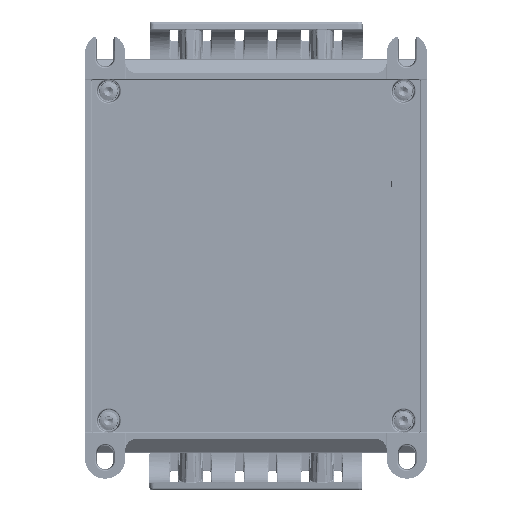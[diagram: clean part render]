
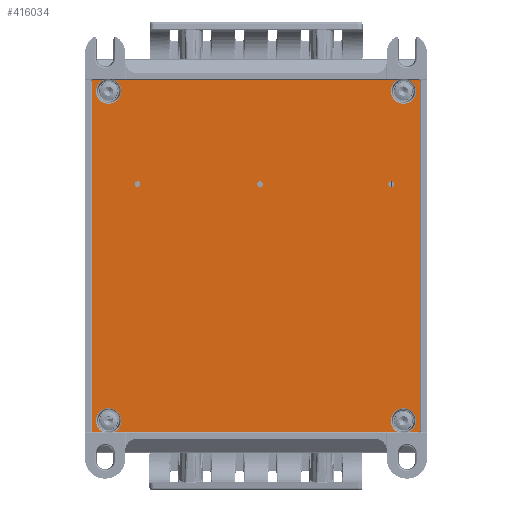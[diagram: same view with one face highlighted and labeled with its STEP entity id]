
A CAD part, front view. The second image highlights one B-rep face of the part: STEP entity #416034.
In plain terms, the highlighted planar face has unit normal (0, -1, 0).
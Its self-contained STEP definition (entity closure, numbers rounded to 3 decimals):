
#36727=CIRCLE('',#444584,0.66);
#36731=CIRCLE('',#444590,0.66);
#36734=CIRCLE('',#444595,5.386);
#36738=CIRCLE('',#444600,5.386);
#36742=CIRCLE('',#444604,5.386);
#37201=CIRCLE('',#445582,0.66);
#37205=CIRCLE('',#445588,0.66);
#37206=CIRCLE('',#445594,5.386);
#37208=CIRCLE('',#445597,5.386);
#37209=CIRCLE('',#445598,5.386);
#37210=CIRCLE('',#445599,1.25);
#37211=CIRCLE('',#445600,1.25);
#37212=CIRCLE('',#445601,1.25);
#43037=FACE_BOUND('',#94897,.T.);
#43038=FACE_BOUND('',#94898,.T.);
#43039=FACE_BOUND('',#94899,.T.);
#51762=PLANE('',#445596);
#70455=FACE_OUTER_BOUND('',#94896,.T.);
#94896=EDGE_LOOP('',(#364639,#364640,#364641,#364642,#364643,#364644,#364645,
#364646,#364647,#364648,#364649,#364650,#364651,#364652,#364653,#364654,
#364655,#364656));
#94897=EDGE_LOOP('',(#364657));
#94898=EDGE_LOOP('',(#364658));
#94899=EDGE_LOOP('',(#364659));
#129168=LINE('',#746256,#165832);
#129170=LINE('',#746268,#165834);
#129172=LINE('',#746280,#165836);
#129855=LINE('',#751983,#166519);
#129856=LINE('',#751986,#166520);
#129857=LINE('',#752088,#166521);
#129859=LINE('',#752100,#166523);
#129860=LINE('',#752107,#166524);
#165832=VECTOR('',#527281,10.);
#165834=VECTOR('',#527295,10.);
#165836=VECTOR('',#527309,10.);
#166519=VECTOR('',#529954,10.);
#166520=VECTOR('',#529957,10.);
#166521=VECTOR('',#529966,10.);
#166523=VECTOR('',#529980,10.);
#166524=VECTOR('',#529991,10.);
#208773=VERTEX_POINT('',#746211);
#208776=VERTEX_POINT('',#746232);
#208777=VERTEX_POINT('',#746252);
#208779=VERTEX_POINT('',#746258);
#208781=VERTEX_POINT('',#746264);
#208783=VERTEX_POINT('',#746270);
#208785=VERTEX_POINT('',#746276);
#208787=VERTEX_POINT('',#746366);
#208792=VERTEX_POINT('',#746416);
#209683=VERTEX_POINT('',#751964);
#209684=VERTEX_POINT('',#751966);
#209685=VERTEX_POINT('',#751985);
#209686=VERTEX_POINT('',#752063);
#209688=VERTEX_POINT('',#752086);
#209689=VERTEX_POINT('',#752090);
#209691=VERTEX_POINT('',#752096);
#209693=VERTEX_POINT('',#752102);
#209694=VERTEX_POINT('',#752117);
#209695=VERTEX_POINT('',#752120);
#209696=VERTEX_POINT('',#752122);
#209697=VERTEX_POINT('',#752124);
#261224=EDGE_CURVE('',#208773,#208777,#129168,.T.);
#261227=EDGE_CURVE('',#208777,#208779,#36727,.T.);
#261230=EDGE_CURVE('',#208779,#208781,#129170,.T.);
#261233=EDGE_CURVE('',#208781,#208783,#36731,.T.);
#261236=EDGE_CURVE('',#208783,#208785,#129172,.T.);
#261241=EDGE_CURVE('',#208785,#208787,#36734,.T.);
#261245=EDGE_CURVE('',#208776,#208792,#36738,.T.);
#261249=EDGE_CURVE('',#208792,#208773,#36742,.T.);
#262624=EDGE_CURVE('',#209683,#208776,#129855,.T.);
#262625=EDGE_CURVE('',#208787,#209685,#129856,.T.);
#262631=EDGE_CURVE('',#209686,#209688,#129857,.T.);
#262634=EDGE_CURVE('',#209688,#209689,#37201,.T.);
#262637=EDGE_CURVE('',#209689,#209691,#129859,.T.);
#262640=EDGE_CURVE('',#209691,#209693,#37205,.T.);
#262641=EDGE_CURVE('',#209693,#209684,#129860,.T.);
#262644=EDGE_CURVE('',#209685,#209686,#37206,.T.);
#262646=EDGE_CURVE('',#209694,#209683,#37208,.T.);
#262647=EDGE_CURVE('',#209684,#209694,#37209,.T.);
#262648=EDGE_CURVE('',#209695,#209695,#37210,.T.);
#262649=EDGE_CURVE('',#209696,#209696,#37211,.T.);
#262650=EDGE_CURVE('',#209697,#209697,#37212,.T.);
#364639=ORIENTED_EDGE('',*,*,#262624,.F.);
#364640=ORIENTED_EDGE('',*,*,#262646,.F.);
#364641=ORIENTED_EDGE('',*,*,#262647,.F.);
#364642=ORIENTED_EDGE('',*,*,#262641,.F.);
#364643=ORIENTED_EDGE('',*,*,#262640,.F.);
#364644=ORIENTED_EDGE('',*,*,#262637,.F.);
#364645=ORIENTED_EDGE('',*,*,#262634,.F.);
#364646=ORIENTED_EDGE('',*,*,#262631,.F.);
#364647=ORIENTED_EDGE('',*,*,#262644,.F.);
#364648=ORIENTED_EDGE('',*,*,#262625,.F.);
#364649=ORIENTED_EDGE('',*,*,#261241,.F.);
#364650=ORIENTED_EDGE('',*,*,#261236,.F.);
#364651=ORIENTED_EDGE('',*,*,#261233,.F.);
#364652=ORIENTED_EDGE('',*,*,#261230,.F.);
#364653=ORIENTED_EDGE('',*,*,#261227,.F.);
#364654=ORIENTED_EDGE('',*,*,#261224,.F.);
#364655=ORIENTED_EDGE('',*,*,#261249,.F.);
#364656=ORIENTED_EDGE('',*,*,#261245,.F.);
#364657=ORIENTED_EDGE('',*,*,#262648,.T.);
#364658=ORIENTED_EDGE('',*,*,#262649,.T.);
#364659=ORIENTED_EDGE('',*,*,#262650,.T.);
#416034=ADVANCED_FACE('',(#70455,#43037,#43038,#43039),#51762,.F.);
#444584=AXIS2_PLACEMENT_3D('',#746262,#527288,#527289);
#444590=AXIS2_PLACEMENT_3D('',#746274,#527302,#527303);
#444595=AXIS2_PLACEMENT_3D('',#746409,#527314,#527315);
#444600=AXIS2_PLACEMENT_3D('',#746417,#527324,#527325);
#444604=AXIS2_PLACEMENT_3D('',#746423,#527332,#527333);
#445582=AXIS2_PLACEMENT_3D('',#752094,#529973,#529974);
#445588=AXIS2_PLACEMENT_3D('',#752105,#529987,#529988);
#445594=AXIS2_PLACEMENT_3D('',#752114,#530002,#530003);
#445596=AXIS2_PLACEMENT_3D('',#752116,#530006,#530007);
#445597=AXIS2_PLACEMENT_3D('',#752118,#530008,#530009);
#445598=AXIS2_PLACEMENT_3D('',#752119,#530010,#530011);
#445599=AXIS2_PLACEMENT_3D('',#752121,#530012,#530013);
#445600=AXIS2_PLACEMENT_3D('',#752123,#530014,#530015);
#445601=AXIS2_PLACEMENT_3D('',#752125,#530016,#530017);
#527281=DIRECTION('',(1.,0.,0.));
#527288=DIRECTION('center_axis',(0.,1.,0.));
#527289=DIRECTION('ref_axis',(0.707,0.,0.707));
#527295=DIRECTION('',(0.,0.,-1.));
#527302=DIRECTION('center_axis',(0.,1.,0.));
#527303=DIRECTION('ref_axis',(0.707,0.,-0.707));
#527309=DIRECTION('',(-1.,0.,0.));
#527314=DIRECTION('center_axis',(0.,-1.,0.));
#527315=DIRECTION('ref_axis',(-1.,0.,0.));
#527324=DIRECTION('center_axis',(0.,-1.,0.));
#527325=DIRECTION('ref_axis',(-1.,0.,0.));
#527332=DIRECTION('center_axis',(0.,-1.,0.));
#527333=DIRECTION('ref_axis',(-1.,0.,0.));
#529954=DIRECTION('',(1.,0.,0.));
#529957=DIRECTION('',(-1.,0.,0.));
#529966=DIRECTION('',(-1.,0.,0.));
#529973=DIRECTION('center_axis',(0.,1.,0.));
#529974=DIRECTION('ref_axis',(-0.707,0.,-0.707));
#529980=DIRECTION('',(0.,0.,1.));
#529987=DIRECTION('center_axis',(0.,1.,0.));
#529988=DIRECTION('ref_axis',(-0.707,0.,0.707));
#529991=DIRECTION('',(1.,0.,0.));
#530002=DIRECTION('center_axis',(0.,-1.,0.));
#530003=DIRECTION('ref_axis',(-1.,0.,0.));
#530006=DIRECTION('center_axis',(0.,1.,0.));
#530007=DIRECTION('ref_axis',(0.,0.,1.));
#530008=DIRECTION('center_axis',(0.,-1.,0.));
#530009=DIRECTION('ref_axis',(-1.,0.,0.));
#530010=DIRECTION('center_axis',(0.,-1.,0.));
#530011=DIRECTION('ref_axis',(-1.,0.,0.));
#530012=DIRECTION('center_axis',(0.,1.,0.));
#530013=DIRECTION('ref_axis',(-1.,0.,0.));
#530014=DIRECTION('center_axis',(0.,1.,0.));
#530015=DIRECTION('ref_axis',(-1.,0.,0.));
#530016=DIRECTION('center_axis',(0.,1.,0.));
#530017=DIRECTION('ref_axis',(-1.,0.,0.));
#746211=CARTESIAN_POINT('',(23.47,1.,75.16));
#746232=CARTESIAN_POINT('',(18.43,1.,75.16));
#746252=CARTESIAN_POINT('',(27.45,1.,75.16));
#746256=CARTESIAN_POINT('',(-33.775,1.,75.16));
#746258=CARTESIAN_POINT('',(28.11,1.,74.5));
#746262=CARTESIAN_POINT('Origin',(27.45,1.,74.5));
#746264=CARTESIAN_POINT('',(28.11,1.,-74.5));
#746268=CARTESIAN_POINT('',(28.11,1.,-43.25));
#746270=CARTESIAN_POINT('',(27.45,1.,-75.16));
#746274=CARTESIAN_POINT('Origin',(27.45,1.,-74.5));
#746276=CARTESIAN_POINT('',(23.47,1.,-75.16));
#746280=CARTESIAN_POINT('',(-134.225,1.,-75.16));
#746366=CARTESIAN_POINT('',(18.43,1.,-75.16));
#746409=CARTESIAN_POINT('Origin',(20.95,1.,-70.4));
#746416=CARTESIAN_POINT('',(20.95,1.,65.014));
#746417=CARTESIAN_POINT('Origin',(20.95,1.,70.4));
#746423=CARTESIAN_POINT('Origin',(20.95,1.,70.4));
#751964=CARTESIAN_POINT('',(-102.43,1.,75.16));
#751966=CARTESIAN_POINT('',(-107.47,1.,75.16));
#751983=CARTESIAN_POINT('',(50.225,1.,75.16));
#751985=CARTESIAN_POINT('',(-102.43,1.,-75.16));
#751986=CARTESIAN_POINT('',(-50.225,1.,-75.16));
#752063=CARTESIAN_POINT('',(-107.47,1.,-75.16));
#752086=CARTESIAN_POINT('',(-111.45,1.,-75.16));
#752088=CARTESIAN_POINT('',(-50.225,1.,-75.16));
#752090=CARTESIAN_POINT('',(-112.11,1.,-74.5));
#752094=CARTESIAN_POINT('Origin',(-111.45,1.,-74.5));
#752096=CARTESIAN_POINT('',(-112.11,1.,74.5));
#752100=CARTESIAN_POINT('',(-112.11,1.,43.25));
#752102=CARTESIAN_POINT('',(-111.45,1.,75.16));
#752105=CARTESIAN_POINT('Origin',(-111.45,1.,74.5));
#752107=CARTESIAN_POINT('',(50.225,1.,75.16));
#752114=CARTESIAN_POINT('Origin',(-104.95,1.,-70.4));
#752116=CARTESIAN_POINT('Origin',(0.,1.,0.));
#752117=CARTESIAN_POINT('',(-104.95,1.,65.014));
#752118=CARTESIAN_POINT('Origin',(-104.95,1.,70.4));
#752119=CARTESIAN_POINT('Origin',(-104.95,1.,70.4));
#752120=CARTESIAN_POINT('',(17.025,1.,30.65));
#752121=CARTESIAN_POINT('Origin',(15.775,1.,30.65));
#752122=CARTESIAN_POINT('',(-91.335,1.,30.65));
#752123=CARTESIAN_POINT('Origin',(-92.585,1.,30.65));
#752124=CARTESIAN_POINT('',(-38.975,1.,30.65));
#752125=CARTESIAN_POINT('Origin',(-40.225,1.,30.65));
